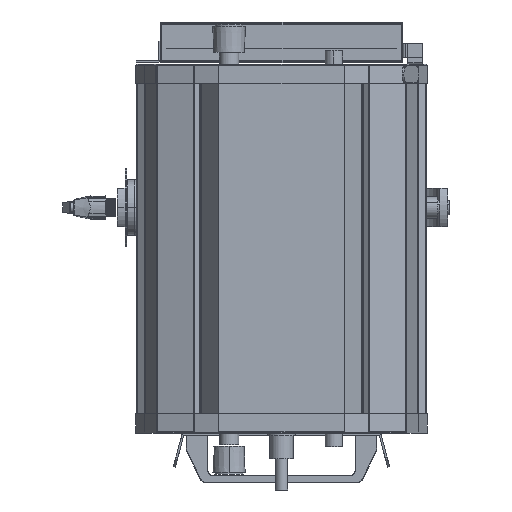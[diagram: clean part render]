
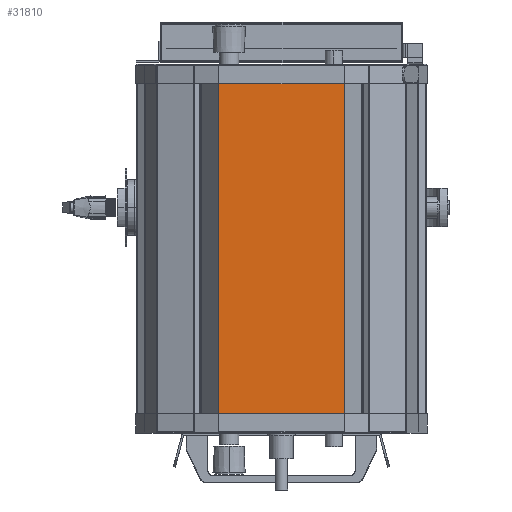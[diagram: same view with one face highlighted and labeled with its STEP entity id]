
A CAD part, front view. The second image highlights one B-rep face of the part: STEP entity #31810.
In plain terms, the highlighted planar face has unit normal (0, -1, 0).
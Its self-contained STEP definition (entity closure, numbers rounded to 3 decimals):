
#1797 = VERTEX_POINT ( 'NONE', #12607 ) ;
#2789 = EDGE_CURVE ( 'NONE', #11617, #13975, #35753, .T. ) ;
#4110 = EDGE_CURVE ( 'NONE', #8125, #13975, #8663, .T. ) ;
#7380 = DIRECTION ( 'NONE',  ( 0., -1., 0. ) ) ;
#8125 = VERTEX_POINT ( 'NONE', #23745 ) ;
#8663 = LINE ( 'NONE', #46267, #31949 ) ;
#9260 = DIRECTION ( 'NONE',  ( -1., 0., 0. ) ) ;
#11247 = DIRECTION ( 'NONE',  ( 0., 0., -1. ) ) ;
#11617 = VERTEX_POINT ( 'NONE', #40153 ) ;
#12607 = CARTESIAN_POINT ( 'NONE',  ( 64.389, -169., -1.3 ) ) ;
#13604 = FACE_OUTER_BOUND ( 'NONE', #46489, .T. ) ;
#13975 = VERTEX_POINT ( 'NONE', #35193 ) ;
#14592 = CARTESIAN_POINT ( 'NONE',  ( 65., -169., -1.3 ) ) ;
#15471 = EDGE_CURVE ( 'NONE', #11617, #1797, #18422, .T. ) ;
#18040 = EDGE_CURVE ( 'NONE', #1797, #8125, #33766, .T. ) ;
#18422 = LINE ( 'NONE', #21910, #38124 ) ;
#21275 = CARTESIAN_POINT ( 'NONE',  ( 65., -169., -1.3 ) ) ;
#21910 = CARTESIAN_POINT ( 'NONE',  ( 64.389, -169., -1.3 ) ) ;
#23745 = CARTESIAN_POINT ( 'NONE',  ( -64.389, -169., -1.3 ) ) ;
#24439 = DIRECTION ( 'NONE',  ( -1., 0., 0. ) ) ;
#24765 = CARTESIAN_POINT ( 'NONE',  ( 65., -169., -378.3 ) ) ;
#25910 = ORIENTED_EDGE ( 'NONE', *, *, #18040, .T. ) ;
#29762 = VECTOR ( 'NONE', #24439, 1000. ) ;
#29766 = ORIENTED_EDGE ( 'NONE', *, *, #2789, .F. ) ;
#31810 = ADVANCED_FACE ( 'NONE', ( #13604 ), #37438, .T. ) ;
#31949 = VECTOR ( 'NONE', #11247, 1000. ) ;
#33766 = LINE ( 'NONE', #21275, #34335 ) ;
#34335 = VECTOR ( 'NONE', #9260, 1000. ) ;
#34536 = AXIS2_PLACEMENT_3D ( 'NONE', #14592, #7380, #41248 ) ;
#35193 = CARTESIAN_POINT ( 'NONE',  ( -64.389, -169., -378.3 ) ) ;
#35753 = LINE ( 'NONE', #24765, #29762 ) ;
#36216 = ORIENTED_EDGE ( 'NONE', *, *, #4110, .T. ) ;
#37438 = PLANE ( 'NONE',  #34536 ) ;
#37576 = DIRECTION ( 'NONE',  ( 0., 0., 1. ) ) ;
#37916 = ORIENTED_EDGE ( 'NONE', *, *, #15471, .T. ) ;
#38124 = VECTOR ( 'NONE', #37576, 1000. ) ;
#40153 = CARTESIAN_POINT ( 'NONE',  ( 64.389, -169., -378.3 ) ) ;
#41248 = DIRECTION ( 'NONE',  ( 1., 0., 0. ) ) ;
#46267 = CARTESIAN_POINT ( 'NONE',  ( -64.389, -169., -378.3 ) ) ;
#46489 = EDGE_LOOP ( 'NONE', ( #25910, #36216, #29766, #37916 ) ) ;
